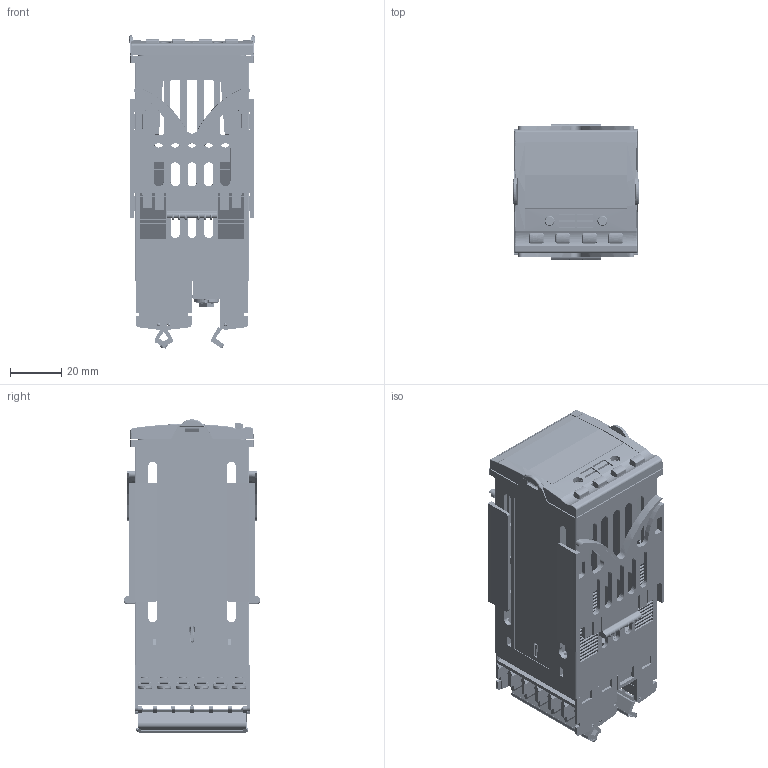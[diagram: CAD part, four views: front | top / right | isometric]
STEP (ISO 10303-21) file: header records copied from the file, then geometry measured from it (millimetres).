
FILE_DESCRIPTION((''),'2;1');
FILE_NAME('2116I_STEPFILE_IGES','2012-01-03T',('chrisloe'),(''),'PRO/ENGINEER BY PARAMETRIC TECHNOLOGY CORPORATION, 2010180','PRO/ENGINEER BY PARAMETRIC TECHNOLOGY CORPORATION, 2010180','');
FILE_SCHEMA(('CONFIG_CONTROL_DESIGN'));
Length unit declared in the file: millimetre
Products named in the file (1): 2116I_STEPFILE_IGES
Bounding box: 49 x 53.2 x 122.13 mm (x, y, z)
Volume: 54447 mm3; surface area: 98405.2 mm2
Topology: 4 solids, 60 shells, 9583 faces, 26120 edges, 16524 vertices
Faces by surface type: plane 7159, cylinder 1700, cone 349, torus 224, bspline 149, sphere 2
Entity records: 312946 total; most frequent: CARTESIAN_POINT 74172, ORIENTED_EDGE 52101, DIRECTION 46103, EDGE_CURVE 26106, VECTOR 19507, LINE 19507, VERTEX_POINT 16523, AXIS2_PLACEMENT_3D 13298
